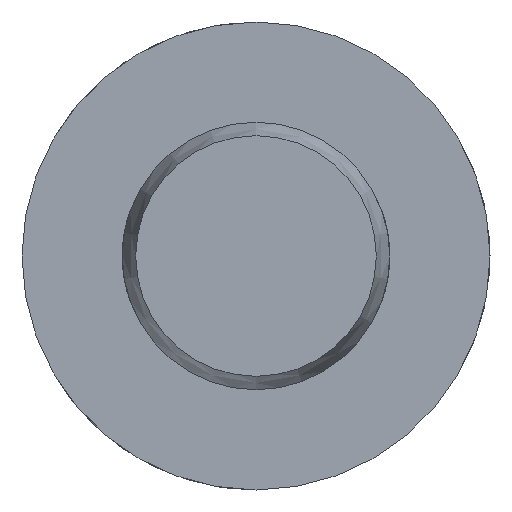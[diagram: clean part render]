
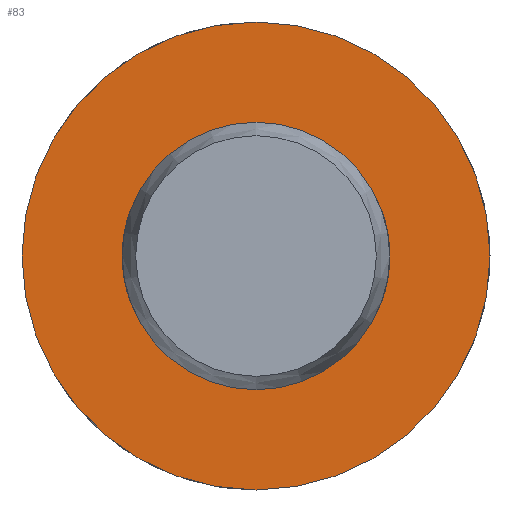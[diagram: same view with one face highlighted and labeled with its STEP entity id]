
A CAD part, left-side view. The second image highlights one B-rep face of the part: STEP entity #83.
In plain terms, the highlighted planar face has unit normal (-1, 0, 0).
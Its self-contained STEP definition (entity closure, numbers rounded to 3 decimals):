
#83 = ADVANCED_FACE( '', ( #128, #129 ), #130, .F. );
#128 = FACE_OUTER_BOUND( '', #204, .T. );
#129 = FACE_BOUND( '', #205, .T. );
#130 = PLANE( '', #206 );
#204 = EDGE_LOOP( '', ( #318 ) );
#205 = EDGE_LOOP( '', ( #319 ) );
#206 = AXIS2_PLACEMENT_3D( '', #320, #321, #322 );
#318 = ORIENTED_EDGE( '', *, *, #481, .F. );
#319 = ORIENTED_EDGE( '', *, *, #471, .T. );
#320 = CARTESIAN_POINT( '', ( 108.2, 4., 0. ) );
#321 = DIRECTION( '', ( 1., 0., 0. ) );
#322 = DIRECTION( '', ( 0., 0., -1. ) );
#471 = EDGE_CURVE( '', #541, #541, #542, .T. );
#481 = EDGE_CURVE( '', #559, #559, #560, .T. );
#541 = VERTEX_POINT( '', #726 );
#542 = CIRCLE( '', #727, 4. );
#559 = VERTEX_POINT( '', #861 );
#560 = CIRCLE( '', #862, 7. );
#726 = CARTESIAN_POINT( '', ( 108.2, 0., -4. ) );
#727 = AXIS2_PLACEMENT_3D( '', #923, #924, #925 );
#861 = CARTESIAN_POINT( '', ( 108.2, 0., -7. ) );
#862 = AXIS2_PLACEMENT_3D( '', #944, #945, #946 );
#923 = CARTESIAN_POINT( '', ( 108.2, 0., 0. ) );
#924 = DIRECTION( '', ( 1., 0., 0. ) );
#925 = DIRECTION( '', ( 0., 0., -1. ) );
#944 = CARTESIAN_POINT( '', ( 108.2, 0., 0. ) );
#945 = DIRECTION( '', ( 1., 0., 0. ) );
#946 = DIRECTION( '', ( 0., 0., -1. ) );
